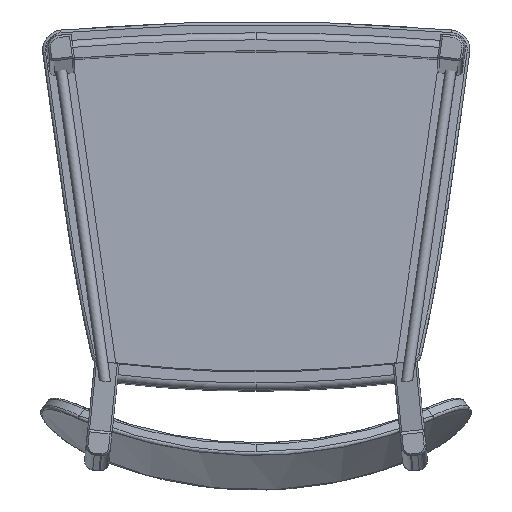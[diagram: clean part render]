
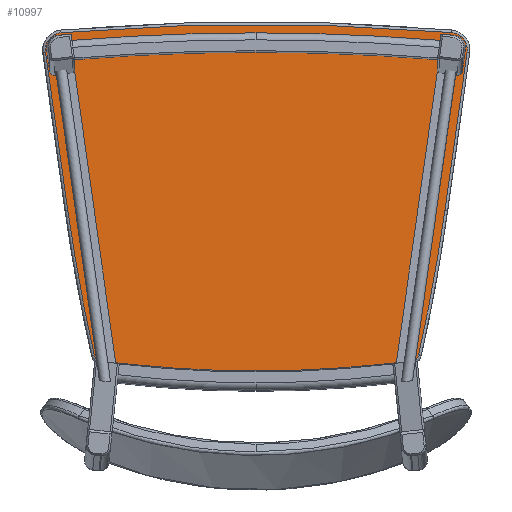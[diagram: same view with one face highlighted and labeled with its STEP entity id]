
A CAD part, front view. The second image highlights one B-rep face of the part: STEP entity #10997.
In plain terms, the highlighted planar face has unit normal (0, -0.999, 0.035).
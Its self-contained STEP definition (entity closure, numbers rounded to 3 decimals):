
#3 = CARTESIAN_POINT ( 'NONE',  ( -1771.295, 412.193, 62.8 ) ) ;
#124 = DIRECTION ( 'NONE',  ( 0., -0.999, 0.035 ) ) ;
#211 = CARTESIAN_POINT ( 'NONE',  ( 215.644, 409.357, -18.412 ) ) ;
#334 = AXIS2_PLACEMENT_3D ( 'NONE', #7365, #7552, #10512 ) ;
#364 = CARTESIAN_POINT ( 'NONE',  ( 1771.873, 412.235, 64.015 ) ) ;
#551 = DIRECTION ( 'NONE',  ( 0., -0.035, -0.999 ) ) ;
#671 = LINE ( 'NONE', #6315, #11853 ) ;
#714 = EDGE_CURVE ( 'NONE', #1561, #11073, #870, .T. ) ;
#820 = CARTESIAN_POINT ( 'NONE',  ( 170.584, 397.013, -371.91 ) ) ;
#870 = LINE ( 'NONE', #6650, #9157 ) ;
#1260 = VERTEX_POINT ( 'NONE', #2637 ) ;
#1263 = ORIENTED_EDGE ( 'NONE', *, *, #10518, .T. ) ;
#1318 = ORIENTED_EDGE ( 'NONE', *, *, #9593, .T. ) ;
#1396 = ORIENTED_EDGE ( 'NONE', *, *, #9448, .T. ) ;
#1492 = ORIENTED_EDGE ( 'NONE', *, *, #8390, .T. ) ;
#1561 = VERTEX_POINT ( 'NONE', #4294 ) ;
#1588 = AXIS2_PLACEMENT_3D ( 'NONE', #820, #9724, #9607 ) ;
#1668 = CARTESIAN_POINT ( 'NONE',  ( 0.445, 396.323, -391.671 ) ) ;
#1705 = CARTESIAN_POINT ( 'NONE',  ( -232.188, 408.599, -40.127 ) ) ;
#1976 = EDGE_CURVE ( 'NONE', #6700, #1561, #6505, .T. ) ;
#2220 = VERTEX_POINT ( 'NONE', #10998 ) ;
#2330 = CARTESIAN_POINT ( 'NONE',  ( -215.009, 409.352, -18.56 ) ) ;
#2507 = ORIENTED_EDGE ( 'NONE', *, *, #1976, .T. ) ;
#2637 = CARTESIAN_POINT ( 'NONE',  ( 133.58, 396.563, -384.781 ) ) ;
#2760 = DIRECTION ( 'NONE',  ( 0., -0.035, -0.999 ) ) ;
#3270 = AXIS2_PLACEMENT_3D ( 'NONE', #10307, #12511, #551 ) ;
#3273 = DIRECTION ( 'NONE',  ( 0., -0.035, -0.999 ) ) ;
#3376 = VERTEX_POINT ( 'NONE', #7542 ) ;
#3388 = CARTESIAN_POINT ( 'NONE',  ( 1.175, 322.045, -2518.712 ) ) ;
#3652 = DIRECTION ( 'NONE',  ( 0., -0.035, -0.999 ) ) ;
#3768 = VERTEX_POINT ( 'NONE', #12274 ) ;
#3833 = AXIS2_PLACEMENT_3D ( 'NONE', #3, #8865, #6936 ) ;
#3865 = FACE_OUTER_BOUND ( 'NONE', #9097, .T. ) ;
#4007 = CIRCLE ( 'NONE', #9332, 1297.5 ) ;
#4294 = CARTESIAN_POINT ( 'NONE',  ( -170.628, 396.696, -380.974 ) ) ;
#4349 = EDGE_CURVE ( 'NONE', #3376, #6700, #8382, .T. ) ;
#4457 = DIRECTION ( 'NONE',  ( 0.995, 0.004, 0.103 ) ) ;
#4518 = EDGE_CURVE ( 'NONE', #9765, #8945, #7767, .T. ) ;
#4582 = DIRECTION ( 'NONE',  ( 0., -0.999, 0.035 ) ) ;
#4755 = CARTESIAN_POINT ( 'NONE',  ( -178.488, 396.94, -373.999 ) ) ;
#5054 = AXIS2_PLACEMENT_3D ( 'NONE', #7588, #11518, #9644 ) ;
#5416 = ORIENTED_EDGE ( 'NONE', *, *, #7577, .T. ) ;
#5724 = PLANE ( 'NONE',  #5054 ) ;
#5858 = VECTOR ( 'NONE', #7940, 1000. ) ;
#5867 = CIRCLE ( 'NONE', #334, 1297.5 ) ;
#5875 = VERTEX_POINT ( 'NONE', #6879 ) ;
#5935 = AXIS2_PLACEMENT_3D ( 'NONE', #364, #9995, #11031 ) ;
#5979 = VERTEX_POINT ( 'NONE', #211 ) ;
#6162 = CARTESIAN_POINT ( 'NONE',  ( 0., 441.605, 905.039 ) ) ;
#6281 = DIRECTION ( 'NONE',  ( 0., -0.999, 0.035 ) ) ;
#6315 = CARTESIAN_POINT ( 'NONE',  ( -207.577, 402.502, -214.701 ) ) ;
#6356 = EDGE_CURVE ( 'NONE', #11073, #6995, #5867, .T. ) ;
#6505 = CIRCLE ( 'NONE', #12062, 9. ) ;
#6603 = DIRECTION ( 'NONE',  ( 0., -0.999, 0.035 ) ) ;
#6650 = CARTESIAN_POINT ( 'NONE',  ( 1706.259, 389.962, -573.816 ) ) ;
#6700 = VERTEX_POINT ( 'NONE', #4755 ) ;
#6879 = CARTESIAN_POINT ( 'NONE',  ( 179.366, 396.944, -373.876 ) ) ;
#6936 = DIRECTION ( 'NONE',  ( 0., -0.035, -0.999 ) ) ;
#6995 = VERTEX_POINT ( 'NONE', #1668 ) ;
#7028 = VERTEX_POINT ( 'NONE', #8529 ) ;
#7130 = ORIENTED_EDGE ( 'NONE', *, *, #4349, .T. ) ;
#7131 = CIRCLE ( 'NONE', #1588, 9. ) ;
#7327 = ORIENTED_EDGE ( 'NONE', *, *, #9841, .T. ) ;
#7365 = CARTESIAN_POINT ( 'NONE',  ( 0., 441.605, 905.039 ) ) ;
#7538 = DIRECTION ( 'NONE',  ( 0., -0.035, -0.999 ) ) ;
#7542 = CARTESIAN_POINT ( 'NONE',  ( -207.577, 402.502, -214.701 ) ) ;
#7552 = DIRECTION ( 'NONE',  ( 0., -0.999, 0.035 ) ) ;
#7577 = EDGE_CURVE ( 'NONE', #5875, #2220, #9783, .T. ) ;
#7588 = CARTESIAN_POINT ( 'NONE',  ( 1771.873, 412.235, 64.015 ) ) ;
#7657 = CARTESIAN_POINT ( 'NONE',  ( -169.707, 397.009, -372.027 ) ) ;
#7767 = CIRCLE ( 'NONE', #3270, 19. ) ;
#7772 = CARTESIAN_POINT ( 'NONE',  ( -132.694, 396.56, -384.872 ) ) ;
#7813 = ORIENTED_EDGE ( 'NONE', *, *, #4518, .T. ) ;
#7940 = DIRECTION ( 'NONE',  ( 0.139, 0.035, 0.99 ) ) ;
#8234 = CARTESIAN_POINT ( 'NONE',  ( 276.806, 419.55, 273.483 ) ) ;
#8367 = DIRECTION ( 'NONE',  ( 0.14, -0.035, -0.99 ) ) ;
#8382 = CIRCLE ( 'NONE', #5935, 1999. ) ;
#8390 = EDGE_CURVE ( 'NONE', #8945, #3376, #671, .T. ) ;
#8407 = ORIENTED_EDGE ( 'NONE', *, *, #9254, .T. ) ;
#8496 = LINE ( 'NONE', #12312, #8739 ) ;
#8529 = CARTESIAN_POINT ( 'NONE',  ( 232.837, 408.604, -39.967 ) ) ;
#8688 = DIRECTION ( 'NONE',  ( 0.995, -0.004, -0.102 ) ) ;
#8739 = VECTOR ( 'NONE', #4457, 1000. ) ;
#8829 = ORIENTED_EDGE ( 'NONE', *, *, #714, .T. ) ;
#8865 = DIRECTION ( 'NONE',  ( 0., -0.999, 0.035 ) ) ;
#8945 = VERTEX_POINT ( 'NONE', #1705 ) ;
#9097 = EDGE_LOOP ( 'NONE', ( #7327, #8407, #1318, #7813, #1492, #7130, #2507, #8829, #11894, #1396, #1263, #11036, #5416 ) ) ;
#9130 = CIRCLE ( 'NONE', #10573, 19. ) ;
#9157 = VECTOR ( 'NONE', #8688, 1000. ) ;
#9254 = EDGE_CURVE ( 'NONE', #7028, #5979, #9130, .T. ) ;
#9332 = AXIS2_PLACEMENT_3D ( 'NONE', #6162, #6281, #3273 ) ;
#9448 = EDGE_CURVE ( 'NONE', #6995, #1260, #4007, .T. ) ;
#9540 = AXIS2_PLACEMENT_3D ( 'NONE', #3388, #6603, #3652 ) ;
#9593 = EDGE_CURVE ( 'NONE', #5979, #9765, #10357, .T. ) ;
#9607 = DIRECTION ( 'NONE',  ( 0., -0.035, -0.999 ) ) ;
#9634 = CARTESIAN_POINT ( 'NONE',  ( 214.021, 408.696, -37.331 ) ) ;
#9644 = DIRECTION ( 'NONE',  ( 0., -0.035, -0.999 ) ) ;
#9724 = DIRECTION ( 'NONE',  ( 0., -0.999, 0.035 ) ) ;
#9765 = VERTEX_POINT ( 'NONE', #2330 ) ;
#9783 = CIRCLE ( 'NONE', #3833, 1999. ) ;
#9841 = EDGE_CURVE ( 'NONE', #2220, #7028, #11327, .T. ) ;
#9995 = DIRECTION ( 'NONE',  ( 0., -0.999, 0.035 ) ) ;
#10307 = CARTESIAN_POINT ( 'NONE',  ( -213.374, 408.691, -37.478 ) ) ;
#10357 = CIRCLE ( 'NONE', #9540, 2511. ) ;
#10512 = DIRECTION ( 'NONE',  ( 0., -0.035, -0.999 ) ) ;
#10518 = EDGE_CURVE ( 'NONE', #1260, #3768, #8496, .T. ) ;
#10573 = AXIS2_PLACEMENT_3D ( 'NONE', #9634, #124, #2760 ) ;
#10997 = ADVANCED_FACE ( 'NONE', ( #3865 ), #5724, .T. ) ;
#10998 = CARTESIAN_POINT ( 'NONE',  ( 208.346, 402.507, -214.558 ) ) ;
#11031 = DIRECTION ( 'NONE',  ( 0., -0.035, -0.999 ) ) ;
#11036 = ORIENTED_EDGE ( 'NONE', *, *, #12417, .T. ) ;
#11073 = VERTEX_POINT ( 'NONE', #7772 ) ;
#11327 = LINE ( 'NONE', #8234, #5858 ) ;
#11518 = DIRECTION ( 'NONE',  ( 0., -0.999, 0.035 ) ) ;
#11853 = VECTOR ( 'NONE', #8367, 1000. ) ;
#11894 = ORIENTED_EDGE ( 'NONE', *, *, #6356, .T. ) ;
#12062 = AXIS2_PLACEMENT_3D ( 'NONE', #7657, #4582, #7538 ) ;
#12274 = CARTESIAN_POINT ( 'NONE',  ( 171.511, 396.7, -380.857 ) ) ;
#12312 = CARTESIAN_POINT ( 'NONE',  ( 1800.496, 402.584, -212.357 ) ) ;
#12417 = EDGE_CURVE ( 'NONE', #3768, #5875, #7131, .T. ) ;
#12511 = DIRECTION ( 'NONE',  ( 0., -0.999, 0.035 ) ) ;
